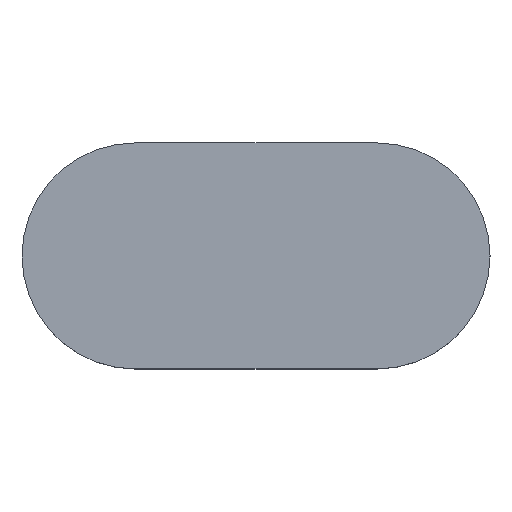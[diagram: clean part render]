
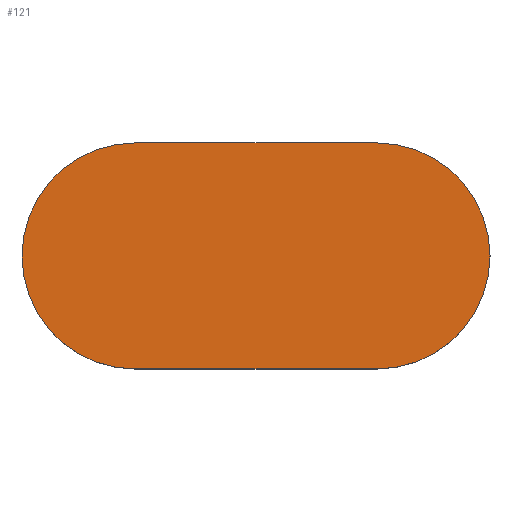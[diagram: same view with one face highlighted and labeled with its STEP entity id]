
A CAD part, top view. The second image highlights one B-rep face of the part: STEP entity #121.
In plain terms, the highlighted planar face has unit normal (0, 0, 1).
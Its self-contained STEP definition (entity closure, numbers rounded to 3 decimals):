
#21 = EDGE_CURVE('',#22,#24,#26,.T.);
#22 = VERTEX_POINT('',#23);
#23 = CARTESIAN_POINT('',(106.,14.8,0.4));
#24 = VERTEX_POINT('',#25);
#25 = CARTESIAN_POINT('',(106.,9.2,0.4));
#26 = CIRCLE('',#27,2.8);
#27 = AXIS2_PLACEMENT_3D('',#28,#29,#30);
#28 = CARTESIAN_POINT('',(106.,12.,0.4));
#29 = DIRECTION('',(0.,0.,1.));
#30 = DIRECTION('',(1.,0.,-0.));
#72 = EDGE_CURVE('',#24,#73,#75,.T.);
#73 = VERTEX_POINT('',#74);
#74 = CARTESIAN_POINT('',(112.,9.2,0.4));
#75 = LINE('',#76,#77);
#76 = CARTESIAN_POINT('',(106.,9.2,0.4));
#77 = VECTOR('',#78,1.);
#78 = DIRECTION('',(1.,0.,-0.));
#103 = EDGE_CURVE('',#22,#104,#106,.T.);
#104 = VERTEX_POINT('',#105);
#105 = CARTESIAN_POINT('',(112.,14.8,0.4));
#106 = LINE('',#107,#108);
#107 = CARTESIAN_POINT('',(106.,14.8,0.4));
#108 = VECTOR('',#109,1.);
#109 = DIRECTION('',(1.,0.,-0.));
#121 = ADVANCED_FACE('',(#122),#143,.T.);
#122 = FACE_BOUND('',#123,.T.);
#123 = EDGE_LOOP('',(#124,#125,#126,#135,#142));
#124 = ORIENTED_EDGE('',*,*,#21,.T.);
#125 = ORIENTED_EDGE('',*,*,#72,.T.);
#126 = ORIENTED_EDGE('',*,*,#127,.T.);
#127 = EDGE_CURVE('',#73,#128,#130,.T.);
#128 = VERTEX_POINT('',#129);
#129 = CARTESIAN_POINT('',(114.8,12.,0.4));
#130 = CIRCLE('',#131,2.8);
#131 = AXIS2_PLACEMENT_3D('',#132,#133,#134);
#132 = CARTESIAN_POINT('',(112.,12.,0.4));
#133 = DIRECTION('',(0.,0.,1.));
#134 = DIRECTION('',(1.,0.,-0.));
#135 = ORIENTED_EDGE('',*,*,#136,.T.);
#136 = EDGE_CURVE('',#128,#104,#137,.T.);
#137 = CIRCLE('',#138,2.8);
#138 = AXIS2_PLACEMENT_3D('',#139,#140,#141);
#139 = CARTESIAN_POINT('',(112.,12.,0.4));
#140 = DIRECTION('',(0.,0.,1.));
#141 = DIRECTION('',(1.,0.,-0.));
#142 = ORIENTED_EDGE('',*,*,#103,.F.);
#143 = PLANE('',#144);
#144 = AXIS2_PLACEMENT_3D('',#145,#146,#147);
#145 = CARTESIAN_POINT('',(109.084,12.,0.4));
#146 = DIRECTION('',(0.,0.,1.));
#147 = DIRECTION('',(1.,0.,-0.));
